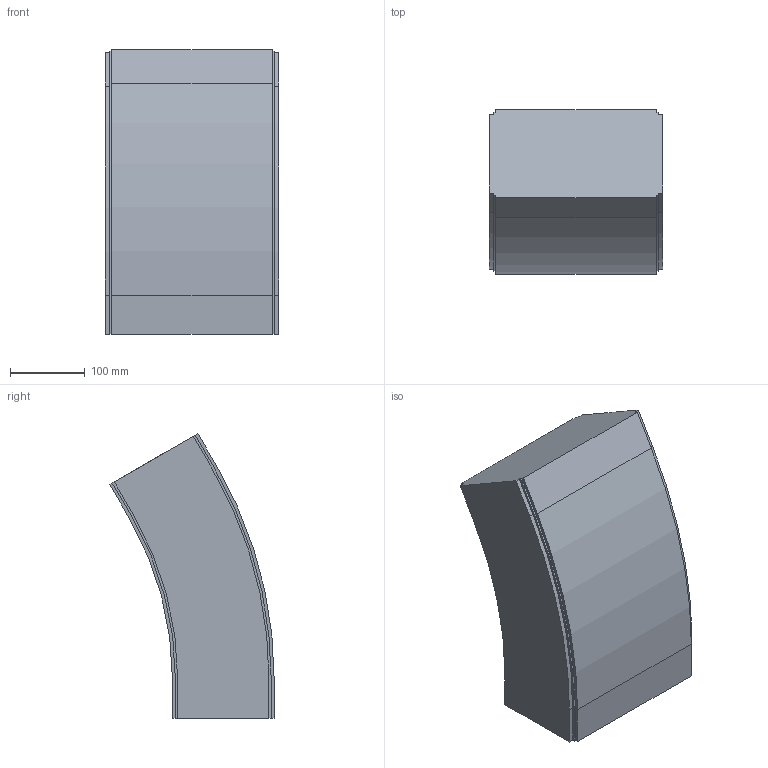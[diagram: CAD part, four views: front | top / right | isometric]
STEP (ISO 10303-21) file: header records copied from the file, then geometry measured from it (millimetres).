
FILE_DESCRIPTION (( 'STEP AP214' ), '1' );
FILE_NAME ('FS-MTC2-150-INOX verticaalbocht.230 30°.STEP', '2017-02-08T12:42:32', ( '' ), ( '' ), 'SwSTEP 2.0', 'SolidWorks 2016', '' );
FILE_SCHEMA (( 'AUTOMOTIVE_DESIGN' ));
Length unit declared in the file: millimetre
Products named in the file (1): FS-MTC2-150-INOX verticaalbocht.230 30°
Bounding box: 232.5 x 220.59 x 382.09 mm (x, y, z)
Volume: 11565716.6 mm3; surface area: 333760.8 mm2
Topology: 1 solids, 1 shells, 42 faces, 120 edges, 80 vertices
Faces by surface type: plane 32, cylinder 10
Entity records: 1398 total; most frequent: CARTESIAN_POINT 243, ORIENTED_EDGE 240, DIRECTION 226, EDGE_CURVE 120, VECTOR 100, LINE 100, VERTEX_POINT 80, AXIS2_PLACEMENT_3D 63
